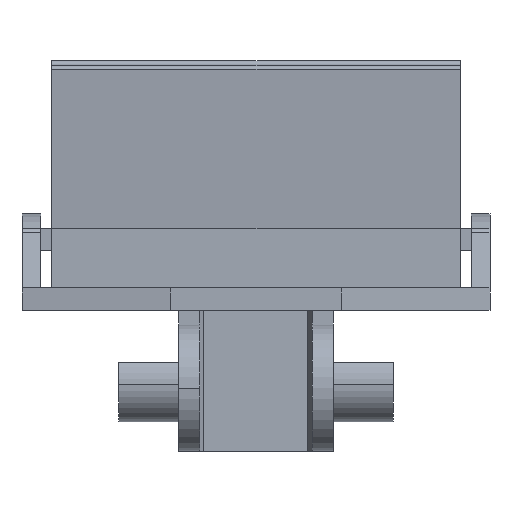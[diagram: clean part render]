
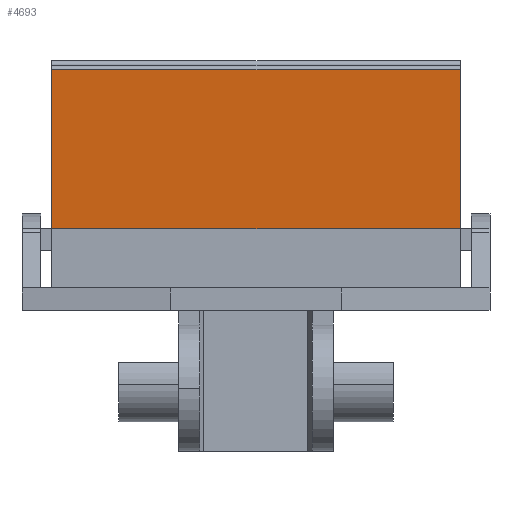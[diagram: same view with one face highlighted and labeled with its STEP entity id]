
A CAD part, front view. The second image highlights one B-rep face of the part: STEP entity #4693.
In plain terms, the highlighted planar face has unit normal (0, -0.996, -0.087).
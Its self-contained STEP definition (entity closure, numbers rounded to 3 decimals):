
#2676 = LINE ( 'NONE', #2725, #2724 ) ;
#2701 = LINE ( 'NONE', #2705, #2757 ) ;
#2704 = DIRECTION ( 'NONE',  ( 1., 0., 0. ) ) ;
#2705 = CARTESIAN_POINT ( 'NONE',  ( 185.7, 165.25, -3. ) ) ;
#2723 = DIRECTION ( 'NONE',  ( 0., 0.087, -0.996 ) ) ;
#2724 = VECTOR ( 'NONE', #2723, 1000. ) ;
#2725 = CARTESIAN_POINT ( 'NONE',  ( 240.7, 163.325, 19. ) ) ;
#2737 = FACE_OUTER_BOUND ( 'NONE', #4694, .T. ) ;
#2749 = AXIS2_PLACEMENT_3D ( 'NONE', #2807, #2806, #2805 ) ;
#2756 = CARTESIAN_POINT ( 'NONE',  ( 240.7, 165.25, -3. ) ) ;
#2757 = VECTOR ( 'NONE', #2704, 1000. ) ;
#2762 = CARTESIAN_POINT ( 'NONE',  ( 240.7, 163.378, 18.402 ) ) ;
#2776 = DIRECTION ( 'NONE',  ( 1., 0., 0. ) ) ;
#2777 = VECTOR ( 'NONE', #2776, 1000. ) ;
#2778 = CARTESIAN_POINT ( 'NONE',  ( 184.003, 163.378, 18.402 ) ) ;
#2779 = PLANE ( 'NONE',  #2749 ) ;
#2783 = LINE ( 'NONE', #2778, #2777 ) ;
#2805 = DIRECTION ( 'NONE',  ( 0., 0.087, -0.996 ) ) ;
#2806 = DIRECTION ( 'NONE',  ( 0., -0.996, -0.087 ) ) ;
#2807 = CARTESIAN_POINT ( 'NONE',  ( 185.7, 165.25, -3. ) ) ;
#2845 = CARTESIAN_POINT ( 'NONE',  ( 185.7, 163.378, 18.402 ) ) ;
#2865 = CARTESIAN_POINT ( 'NONE',  ( 185.7, 165.25, -3. ) ) ;
#2924 = DIRECTION ( 'NONE',  ( 0., 0.087, -0.996 ) ) ;
#2925 = VECTOR ( 'NONE', #2924, 1000. ) ;
#2926 = CARTESIAN_POINT ( 'NONE',  ( 185.7, 163.325, 19. ) ) ;
#2927 = LINE ( 'NONE', #2926, #2925 ) ;
#4667 = ORIENTED_EDGE ( 'NONE', *, *, #4676, .T. ) ;
#4668 = EDGE_CURVE ( 'NONE', #4686, #4689, #2676, .T. ) ;
#4670 = ORIENTED_EDGE ( 'NONE', *, *, #4668, .F. ) ;
#4676 = EDGE_CURVE ( 'NONE', #4712, #4689, #2701, .T. ) ;
#4686 = VERTEX_POINT ( 'NONE', #2762 ) ;
#4687 = ORIENTED_EDGE ( 'NONE', *, *, #4738, .T. ) ;
#4689 = VERTEX_POINT ( 'NONE', #2756 ) ;
#4692 = EDGE_CURVE ( 'NONE', #4722, #4686, #2783, .T. ) ;
#4693 = ADVANCED_FACE ( 'NONE', ( #2737 ), #2779, .T. ) ;
#4694 = EDGE_LOOP ( 'NONE', ( #4695, #4687, #4667, #4670 ) ) ;
#4695 = ORIENTED_EDGE ( 'NONE', *, *, #4692, .F. ) ;
#4712 = VERTEX_POINT ( 'NONE', #2865 ) ;
#4722 = VERTEX_POINT ( 'NONE', #2845 ) ;
#4738 = EDGE_CURVE ( 'NONE', #4722, #4712, #2927, .T. ) ;
